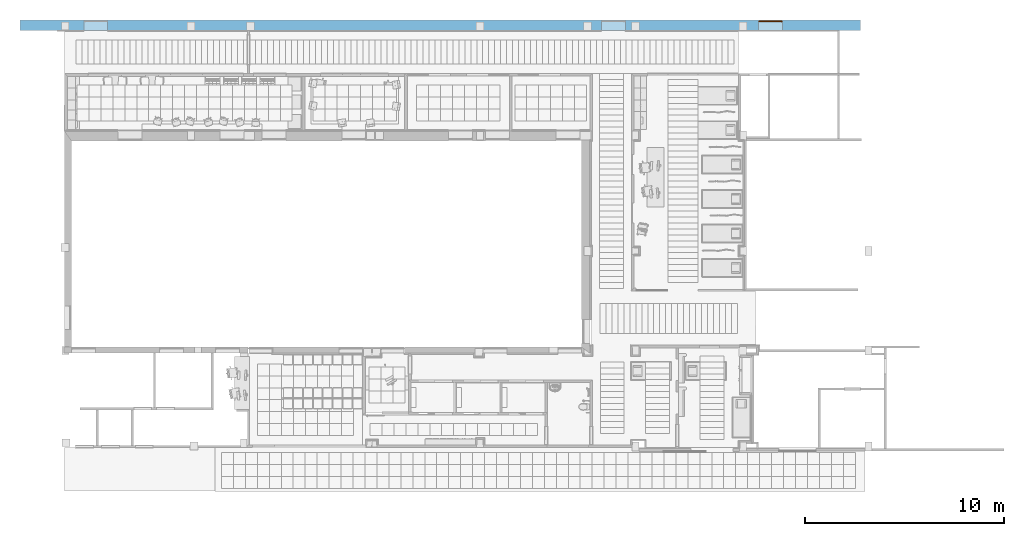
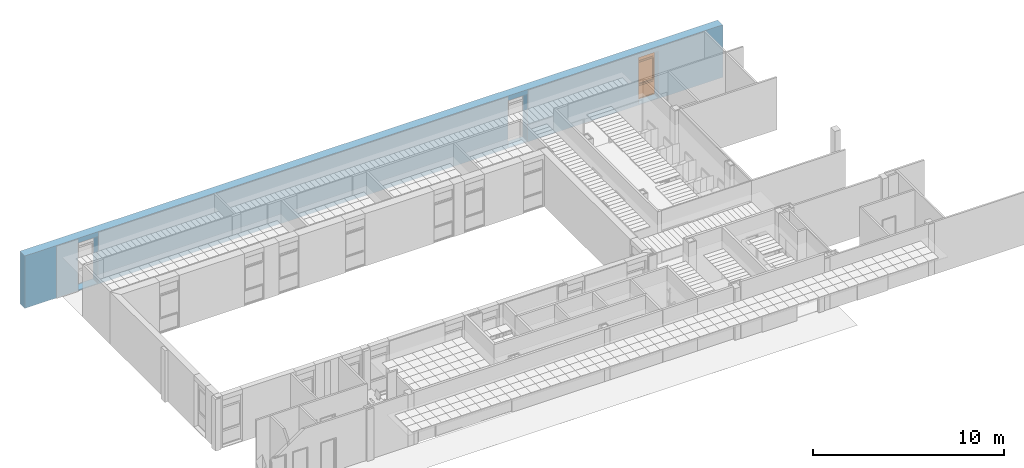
# One storey, part 43 of 68: 1 proxy, 3 openings, plus 1 element that does not belong to this part.
"""IFC2X3 building model written with IfcOpenShell, lengths in millimetres."""

from ifc_helpers import new_model, entity, si_unit, converted_unit, derived_unit, money_unit, direction, frame, origin_with_axes, origin_2d_with_axis, place, context, subcontext, project, spatial, polyline, rectangle, outline, extrude, open_shell, faceted_brep, surface_model, source, transform, mapped, material, layer, layer_set, layer_usage, type_object, element, fill, save


model = new_model("IFC2X3")

# Units and contexts
model_context = context("Model", 3, precision=0.01, world=origin_with_axes(), true_north=direction((0.0, 1.0)))
body_context = subcontext(model_context, "Body", "Model", "MODEL_VIEW")
ifc_project = project(units=[si_unit("LENGTHUNIT", "METRE", prefix="MILLI"), si_unit("AREAUNIT", "SQUARE_METRE"), si_unit("VOLUMEUNIT", "CUBIC_METRE"), converted_unit("PLANEANGLEUNIT", "DEGREE", entity("IfcPlaneAngleMeasure", 0.0174532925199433), si_unit("PLANEANGLEUNIT", "RADIAN"), dimensions=[0, 0, 0, 0, 0, 0, 0]), money_unit("USD"), converted_unit("TIMEUNIT", "Year", entity("IfcTimeMeasure", 31557600.0), si_unit("TIMEUNIT", "SECOND"), dimensions=[0, 0, 1, 0, 0, 0, 0]), si_unit("MASSUNIT", "GRAM", prefix="KILO"), si_unit("THERMODYNAMICTEMPERATUREUNIT", "DEGREE_CELSIUS"), si_unit("LUMINOUSINTENSITYUNIT", "LUMEN"), si_unit("ENERGYUNIT", "JOULE", prefix="MEGA"), derived_unit("THERMALCONDUCTANCEUNIT", [(si_unit("POWERUNIT", "WATT"), 1), (si_unit("LENGTHUNIT", "METRE"), -1), (si_unit("THERMODYNAMICTEMPERATUREUNIT", "KELVIN"), -1)]), derived_unit("SPECIFICHEATCAPACITYUNIT", [(si_unit("ENERGYUNIT", "JOULE"), 1), (si_unit("MASSUNIT", "GRAM", prefix="KILO"), -1), (si_unit("THERMODYNAMICTEMPERATUREUNIT", "KELVIN"), -1)]), derived_unit("MASSDENSITYUNIT", [(si_unit("MASSUNIT", "GRAM", prefix="KILO"), 1), (si_unit("VOLUMEUNIT", "CUBIC_METRE"), -1)])], contexts=[model_context])

# Site, building, storey
site_placement = place(None, origin_with_axes())
site = spatial("IfcSite", under=ifc_project, at=site_placement, Name="Sitio", CompositionType="ELEMENT")
building_placement = place(site_placement, origin_with_axes())
building = spatial("IfcBuilding", under=site, at=building_placement, Name="Construcción", CompositionType="ELEMENT")
storey_placement = place(building_placement, origin_with_axes())
storey = spatial("IfcBuildingStorey", under=building, at=storey_placement, Name="PLANTA 1ª", CompositionType="ELEMENT", Elevation=0.0)

# Wall, openings, proxy
ifc_material_1 = material(Name="ARQ_CE217_Gero")
ifc_layer_1 = layer(ifc_material_1, 100.0, ventilated="UNKNOWN")
ifc_material_2 = material(Name="ARQ_AI031_Aillament_Poliestireno expandido EPS")
ifc_layer_2 = layer(ifc_material_2, 205.0, ventilated="UNKNOWN")
ifc_material_3 = material(Name="ARQ_CE218_Ceramic")
ifc_layer_3 = layer(ifc_material_3, 200.0, ventilated="UNKNOWN")
ifc_material_4 = material(Name="ARQ_AM246_Arrebossat_De_Guix")
ifc_layer_4 = layer(ifc_material_4, 10.0, ventilated="UNKNOWN")
ifc_layer_set = layer_set([ifc_layer_1, ifc_layer_2, ifc_layer_3, ifc_layer_4], Name="façana pati CR5")
ifc_layer_usage = layer_usage(ifc_layer_set, "AXIS2", "NEGATIVE", 515.0)
wall_type = type_object("IfcWallType", Name="façana pati CR5 515", PredefinedType="NOTDEFINED")
wall_placement = place(storey_placement, frame((11882.64037720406, 4378.454186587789, 0.0), z_axis=(0.0, 0.0, 1.0), x_axis=(-1.0, 0.0, 0.0)))
wall = element("IfcWallStandardCase", 1, at=wall_placement, inside=storey, type_object=wall_type, material=ifc_layer_usage, Name="MS-201", context=body_context, shape_type="SweptSolid", body=[
    extrude(outline(polyline([(0.0, 0.0), (42162.71352873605, 0.0), (42162.71352873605, 515.0000000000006), (0.0, 515.0000000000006), (0.0, 0.0)])), origin_with_axes(), (0.0, 0.0, 1.0), 3350.0),
])
opening_1_placement = place(wall_placement, frame((12393.17017963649, 0.0, 50.0), z_axis=(0.0, 0.0, 1.0), x_axis=(1.0, 0.0, 0.0)))
element("IfcOpeningElement", 2, at=opening_1_placement, cuts=wall, Name="V - 008", context=body_context, shape_type="SweptSolid", body=[
    extrude(rectangle(XDim=1199.999999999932, YDim=3000.0, at=origin_2d_with_axis()), frame((0.0, 49.99999999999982, 1500.0), z_axis=(0.0, 1.0, 0.0), x_axis=(1.0, 0.0, 0.0)), (0.0, 0.0, 1.0), 980.0),
    extrude(rectangle(XDim=1199.999999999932, YDim=3000.0, at=origin_2d_with_axis()), frame((0.0, 49.99999999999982, 1500.0), z_axis=(0.0, -1.0, 0.0), x_axis=(1.0, 0.0, 0.0)), (0.0, 0.0, 1.0), 565.0000000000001),
])
opening_2_placement = place(wall_placement, frame((4499.643658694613, 0.0, 50.0), z_axis=(0.0, 0.0, 1.0), x_axis=(1.0, 0.0, 0.0)))
opening_2 = element("IfcOpeningElement", 3, at=opening_2_placement, cuts=wall, Name="V - 009", context=body_context, shape_type="SweptSolid", body=[
    extrude(rectangle(XDim=1199.999999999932, YDim=3000.0, at=origin_2d_with_axis()), frame((0.0, 49.99999999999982, 1500.0), z_axis=(0.0, 1.0, 0.0), x_axis=(1.0, 0.0, 0.0)), (0.0, 0.0, 1.0), 980.0),
    extrude(rectangle(XDim=1199.999999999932, YDim=3000.0, at=origin_2d_with_axis()), frame((0.0, 49.99999999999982, 1500.0), z_axis=(0.0, -1.0, 0.0), x_axis=(1.0, 0.0, 0.0)), (0.0, 0.0, 1.0), 565.0000000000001),
])
opening_3_placement = place(wall_placement, frame((38361.73170307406, 0.0, 50.0), z_axis=(0.0, 0.0, 1.0), x_axis=(1.0, 0.0, 0.0)))
element("IfcOpeningElement", 4, at=opening_3_placement, cuts=wall, Name="V - 010", context=body_context, shape_type="SweptSolid", body=[
    extrude(rectangle(XDim=1199.999999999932, YDim=3000.0, at=origin_2d_with_axis()), frame((0.0, 49.99999999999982, 1500.0), z_axis=(0.0, -1.0, 0.0), x_axis=(-1.0, 0.0, 0.0)), (0.0, 0.0, -1.0), 980.0),
    extrude(rectangle(XDim=1199.999999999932, YDim=3000.0, at=origin_2d_with_axis()), frame((0.0, 49.99999999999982, 1500.0), z_axis=(0.0, 1.0, 0.0), x_axis=(-1.0, 0.0, 0.0)), (0.0, 0.0, -1.0), 565.0000000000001),
])
building_element_proxy_type = type_object("IfcBuildingElementProxyType", Name="Ventana Vertical Multi-Faja 27", PredefinedType="NOTDEFINED")
shared_shape = source(origin_with_axes(), body_context, "Body", "SurfaceModel", [
    faceted_brep([(574.9999999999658, 0.0, 925.0), (574.9999999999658, 0.0, 2375.0), (549.9999999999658, 0.0, 2375.0), (549.9999999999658, 0.0, 2450.0), (549.9999999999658, 0.0, 2950.0), (599.9999999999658, 0.0, 2950.0), (599.9999999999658, 0.0, 50.00000000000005), (549.9999999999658, 0.0, 50.00000000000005), (549.9999999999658, 0.0, 850.0), (549.9999999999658, 0.0, 925.0), (574.9999999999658, -25.00000000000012, 925.0), (574.9999999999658, -25.00000000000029, 2375.0), (549.9999999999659, -25.00000000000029, 2375.0), (549.9999999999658, -25.00000000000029, 2350.0), (549.9999999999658, -50.00000000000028, 2350.0), (549.9999999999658, -50.0000000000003, 2450.0), (549.9999999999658, -50.00000000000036, 2950.0), (599.9999999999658, -50.00000000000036, 2950.0), (599.9999999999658, -50.00000000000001, 50.00000000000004), (549.9999999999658, -50.00000000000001, 50.00000000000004), (549.9999999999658, -50.00000000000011, 850.0), (549.9999999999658, -25.00000000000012, 925.0), (549.9999999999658, -50.00000000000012, 950.0000000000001), (549.9999999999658, -25.00000000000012, 950.0000000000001)], [[[0, 1, 2, 3, 4, 5, 6, 7, 8, 9]], [[1, 0, 10, 11]], [[12, 2, 1, 11]], [[12, 13, 14, 15, 3, 2]], [[3, 15, 16, 4]], [[4, 16, 17, 5]], [[5, 17, 18, 6]], [[6, 18, 19, 7]], [[7, 19, 20, 8]], [[21, 9, 8, 20, 22, 23]], [[0, 9, 21, 10]], [[13, 12, 11, 10, 21, 23]], [[13, 23, 22, 14]], [[17, 16, 15, 14, 22, 20, 19, 18]]]),
    faceted_brep([(-574.9999999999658, 0.0, 925.0), (-549.9999999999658, 0.0, 925.0), (-549.9999999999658, 0.0, 850.0), (-549.9999999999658, 0.0, 50.00000000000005), (-599.9999999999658, 0.0, 50.00000000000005), (-599.9999999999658, 0.0, 2950.0), (-549.9999999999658, 0.0, 2950.0), (-549.9999999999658, 0.0, 2450.0), (-549.9999999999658, 0.0, 2375.0), (-574.9999999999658, 0.0, 2375.0), (-574.9999999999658, -25.00000000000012, 925.0), (-549.9999999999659, -25.00000000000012, 925.0), (-549.9999999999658, -25.00000000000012, 950.0000000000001), (-549.9999999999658, -50.00000000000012, 950.0000000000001), (-549.9999999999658, -50.00000000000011, 850.0), (-549.9999999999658, -50.00000000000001, 50.00000000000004), (-599.9999999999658, -50.00000000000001, 50.00000000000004), (-599.9999999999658, -50.00000000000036, 2950.0), (-549.9999999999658, -50.00000000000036, 2950.0), (-549.9999999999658, -50.0000000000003, 2450.0), (-549.9999999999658, -25.00000000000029, 2375.0), (-549.9999999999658, -50.00000000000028, 2350.0), (-549.9999999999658, -25.00000000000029, 2350.0), (-574.9999999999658, -25.00000000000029, 2375.0)], [[[0, 1, 2, 3, 4, 5, 6, 7, 8, 9]], [[1, 0, 10, 11]], [[11, 12, 13, 14, 2, 1]], [[2, 14, 15, 3]], [[3, 15, 16, 4]], [[4, 16, 17, 5]], [[5, 17, 18, 6]], [[6, 18, 19, 7]], [[20, 8, 7, 19, 21, 22]], [[9, 8, 20, 23]], [[0, 9, 23, 10]], [[20, 22, 12, 11, 10, 23]], [[12, 22, 21, 13]], [[21, 19, 18, 17, 16, 15, 14, 13]]]),
    faceted_brep([(549.9999999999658, -25.00000000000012, 950.0000000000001), (-549.9999999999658, -25.00000000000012, 950.0000000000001), (-549.9999999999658, -50.00000000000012, 950.0000000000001), (549.9999999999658, -50.00000000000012, 950.0000000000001), (-549.9999999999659, -25.00000000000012, 925.0), (549.9999999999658, -25.00000000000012, 925.0), (-549.9999999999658, 0.0, 925.0), (-549.9999999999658, 0.0, 850.0), (-549.9999999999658, -50.00000000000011, 850.0), (549.9999999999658, -50.00000000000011, 850.0), (549.9999999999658, 0.0, 850.0), (549.9999999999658, 0.0, 925.0)], [[[0, 1, 2, 3]], [[4, 1, 0, 5]], [[4, 6, 7, 8, 2, 1]], [[3, 2, 8, 9]], [[5, 0, 3, 9, 10, 11]], [[11, 6, 4, 5]], [[6, 11, 10, 7]], [[10, 9, 8, 7]]]),
    faceted_brep([(549.9999999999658, 0.0, 2375.0), (-549.9999999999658, 0.0, 2375.0), (-549.9999999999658, 0.0, 2450.0), (549.9999999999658, 0.0, 2450.0), (-549.9999999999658, -25.00000000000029, 2375.0), (549.9999999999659, -25.00000000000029, 2375.0), (-549.9999999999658, -25.00000000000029, 2350.0), (-549.9999999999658, -50.00000000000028, 2350.0), (-549.9999999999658, -50.0000000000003, 2450.0), (549.9999999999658, -50.0000000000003, 2450.0), (549.9999999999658, -50.00000000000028, 2350.0), (549.9999999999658, -25.00000000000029, 2350.0)], [[[0, 1, 2, 3]], [[4, 1, 0, 5]], [[4, 6, 7, 8, 2, 1]], [[2, 8, 9, 3]], [[5, 0, 3, 9, 10, 11]], [[6, 4, 5, 11]], [[6, 11, 10, 7]], [[9, 8, 7, 10]]]),
    faceted_brep([(-549.9999999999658, -50.00000000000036, 2950.0), (-599.9999999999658, -50.00000000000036, 2950.0), (-599.9999999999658, 0.0, 2950.0), (-549.9999999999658, 0.0, 2950.0), (549.9999999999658, -50.00000000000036, 2950.0), (599.9999999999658, -50.00000000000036, 2950.0), (599.9999999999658, -50.00000000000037, 3000.0), (-599.9999999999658, -50.00000000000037, 3000.0), (-599.9999999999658, 0.0, 3000.0), (599.9999999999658, 0.0, 3000.0), (599.9999999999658, 0.0, 2950.0), (549.9999999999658, 0.0, 2950.0)], [[[0, 1, 2, 3]], [[0, 4, 5, 6, 7, 1]], [[1, 7, 8, 2]], [[3, 2, 8, 9, 10, 11]], [[4, 0, 3, 11]], [[5, 4, 11, 10]], [[6, 5, 10, 9]], [[7, 6, 9, 8]]]),
    faceted_brep([(549.9999999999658, -50.00000000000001, 50.0), (599.9999999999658, -50.00000000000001, 50.0), (599.9999999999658, 0.0, 50.00000000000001), (549.9999999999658, 0.0, 50.00000000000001), (-549.9999999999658, -50.00000000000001, 50.0), (-599.9999999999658, -50.00000000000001, 50.0), (-599.9999999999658, -50.0, 0.0), (599.9999999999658, -50.0, 0.0), (599.9999999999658, 0.0, 0.0), (-599.9999999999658, 0.0, 0.0), (-599.9999999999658, 0.0, 50.00000000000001), (-549.9999999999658, 0.0, 50.00000000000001)], [[[0, 1, 2, 3]], [[0, 4, 5, 6, 7, 1]], [[1, 7, 8, 2]], [[3, 2, 8, 9, 10, 11]], [[4, 0, 3, 11]], [[5, 4, 11, 10]], [[6, 5, 10, 9]], [[7, 6, 9, 8]]]),
    surface_model("IfcShellBasedSurfaceModel", [(549.9999999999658, -35.0, 49.99999999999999), (549.9999999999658, -35.0000000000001, 850.0), (-549.9999999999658, -35.0000000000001, 850.0), (-549.9999999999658, -35.0, 49.99999999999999)], [open_shell([[[0, 1, 2, 3]]])]),
    surface_model("IfcShellBasedSurfaceModel", [(549.9999999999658, -15.0, 49.99999999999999), (-549.9999999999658, -15.0, 49.99999999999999), (-549.9999999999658, -15.0000000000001, 850.0), (549.9999999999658, -15.0000000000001, 850.0)], [open_shell([[[0, 1, 2, 3]]])]),
    faceted_brep([(521.4999999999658, -25.00000000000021, 1677.0), (521.4999999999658, -37.00000000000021, 1677.0), (522.8397459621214, -37.00000000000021, 1682.0), (522.8397459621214, -25.00000000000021, 1682.0), (521.4999999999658, -25.0000000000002, 1623.0), (521.4999999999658, -37.0000000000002, 1623.0), (522.8397459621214, -37.0000000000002, 1618.0), (526.4999999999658, -37.0000000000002, 1614.339745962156), (531.4999999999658, -37.0000000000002, 1613.0), (543.4999999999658, -37.0000000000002, 1613.0), (548.4999999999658, -37.0000000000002, 1614.339745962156), (552.1602540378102, -37.0000000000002, 1618.0), (553.4999999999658, -37.0000000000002, 1623.0), (553.4999999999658, -37.00000000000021, 1677.0), (552.1602540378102, -37.00000000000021, 1682.0), (548.4999999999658, -37.00000000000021, 1685.660254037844), (543.4999999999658, -37.00000000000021, 1687.0), (531.4999999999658, -37.00000000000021, 1687.0), (526.4999999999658, -37.00000000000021, 1685.660254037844), (526.4999999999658, -25.00000000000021, 1685.660254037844), (531.4999999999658, -25.00000000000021, 1687.0), (543.4999999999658, -25.00000000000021, 1687.0), (548.4999999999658, -25.00000000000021, 1685.660254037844), (552.1602540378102, -25.00000000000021, 1682.0), (553.4999999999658, -25.00000000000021, 1677.0), (553.4999999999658, -25.0000000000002, 1623.0), (552.1602540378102, -25.0000000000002, 1618.0), (548.4999999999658, -25.0000000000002, 1614.339745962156), (543.4999999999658, -25.0000000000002, 1613.0), (531.4999999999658, -25.0000000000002, 1613.0), (526.4999999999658, -25.0000000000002, 1614.339745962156), (522.8397459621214, -25.0000000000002, 1618.0)], [[[0, 1, 2, 3]], [[4, 5, 1, 0]], [[1, 5, 6, 7, 8, 9, 10, 11, 12, 13, 14, 15, 16, 17, 18, 2]], [[3, 2, 18, 19]], [[0, 3, 19, 20, 21, 22, 23, 24, 25, 26, 27, 28, 29, 30, 31, 4]], [[31, 6, 5, 4]], [[30, 7, 6, 31]], [[29, 8, 7, 30]], [[28, 9, 8, 29]], [[27, 10, 9, 28]], [[26, 11, 10, 27]], [[25, 12, 11, 26]], [[24, 13, 12, 25]], [[23, 14, 13, 24]], [[22, 15, 14, 23]], [[21, 16, 15, 22]], [[20, 17, 16, 21]], [[19, 18, 17, 20]]]),
    faceted_brep([(537.4999999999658, -37.0000000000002, 1663.5), (537.4999999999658, -61.00000000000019, 1663.5), (544.2499999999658, -61.00000000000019, 1661.69134295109), (544.2499999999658, -37.0000000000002, 1661.69134295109), (530.7499999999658, -37.0000000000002, 1661.69134295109), (530.7499999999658, -61.00000000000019, 1661.69134295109), (525.8086570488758, -61.00000000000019, 1656.75), (523.9999999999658, -61.00000000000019, 1650.0), (525.808657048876, -61.00000000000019, 1643.25), (530.7499999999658, -61.00000000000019, 1638.30865704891), (537.4999999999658, -61.00000000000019, 1636.5), (544.2499999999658, -61.00000000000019, 1638.30865704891), (549.1913429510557, -61.00000000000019, 1643.25), (550.9999999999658, -61.00000000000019, 1650.0), (549.1913429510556, -61.00000000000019, 1656.75), (549.1913429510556, -37.0000000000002, 1656.75), (550.9999999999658, -37.0000000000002, 1650.0), (549.1913429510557, -37.0000000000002, 1643.25), (544.2499999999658, -37.0000000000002, 1638.30865704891), (537.4999999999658, -37.0000000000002, 1636.5), (530.7499999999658, -37.0000000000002, 1638.30865704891), (525.808657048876, -37.0000000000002, 1643.25), (523.9999999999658, -37.0000000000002, 1650.0), (525.8086570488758, -37.0000000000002, 1656.75)], [[[0, 1, 2, 3]], [[4, 5, 1, 0]], [[1, 5, 6, 7, 8, 9, 10, 11, 12, 13, 14, 2]], [[3, 2, 14, 15]], [[0, 3, 15, 16, 17, 18, 19, 20, 21, 22, 23, 4]], [[23, 6, 5, 4]], [[22, 7, 6, 23]], [[21, 8, 7, 22]], [[20, 9, 8, 21]], [[19, 10, 9, 20]], [[18, 11, 10, 19]], [[17, 12, 11, 18]], [[16, 13, 12, 17]], [[15, 14, 13, 16]]]),
    faceted_brep([(525.9999999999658, -61.00000000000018, 1543.0), (523.9999999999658, -61.00000000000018, 1546.0), (523.9999999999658, -61.00000000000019, 1650.0), (525.8086570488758, -61.00000000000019, 1656.75), (530.7499999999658, -61.00000000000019, 1661.69134295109), (537.4999999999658, -61.00000000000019, 1663.5), (544.2499999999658, -61.00000000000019, 1661.69134295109), (549.1913429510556, -61.00000000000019, 1656.75), (550.9999999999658, -61.00000000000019, 1650.0), (550.9999999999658, -61.00000000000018, 1546.0), (548.9999999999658, -61.00000000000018, 1543.0), (537.4999999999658, -61.00000000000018, 1540.0), (525.999999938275, -69.00000000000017, 1543.000000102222), (523.9999996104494, -69.00000000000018, 1545.999999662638), (523.9999996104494, -69.0000000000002, 1649.99999994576), (525.8086569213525, -69.0000000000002, 1656.749999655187), (530.7500002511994, -69.0000000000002, 1661.691342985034), (537.4999999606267, -69.0000000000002, 1663.500000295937), (544.2499996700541, -69.0000000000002, 1661.691342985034), (549.1913429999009, -69.0000000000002, 1656.749999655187), (551.000000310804, -69.0000000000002, 1649.99999994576), (551.000000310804, -69.00000000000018, 1545.999999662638), (548.9999999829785, -69.00000000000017, 1543.000000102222), (537.4999999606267, -69.00000000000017, 1539.999999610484), (527.8625374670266, -71.99999956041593, 1545.61451963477), (526.9999991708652, -71.99999956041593, 1546.908326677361), (526.9999991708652, -71.99999956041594, 1649.605042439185), (528.4983828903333, -71.99999956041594, 1655.197085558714), (532.3029143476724, -71.99999956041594, 1659.001617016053), (537.4999999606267, -71.99999956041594, 1660.394172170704), (542.697085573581, -71.99999956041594, 1659.001617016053), (546.50161703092, -71.99999956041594, 1655.197085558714), (548.0000007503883, -71.99999956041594, 1649.605042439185), (548.0000007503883, -71.99999956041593, 1546.908326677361), (547.1374624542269, -71.99999956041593, 1545.61451963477), (537.4999999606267, -71.99999956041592, 1543.100398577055)], [[[0, 1, 2, 3, 4, 5, 6, 7, 8, 9, 10, 11]], [[0, 12, 13, 1]], [[1, 13, 14, 2]], [[2, 14, 15, 3]], [[3, 15, 16, 4]], [[4, 16, 17, 5]], [[5, 17, 18, 6]], [[6, 18, 19, 7]], [[7, 19, 20, 8]], [[8, 20, 21, 9]], [[9, 21, 22, 10]], [[10, 22, 23, 11]], [[11, 23, 12, 0]], [[12, 24, 25, 13]], [[13, 25, 26, 14]], [[14, 26, 27, 15]], [[15, 27, 28, 16]], [[16, 28, 29, 17]], [[17, 29, 30, 18]], [[18, 30, 31, 19]], [[19, 31, 32, 20]], [[20, 32, 33, 21]], [[21, 33, 34, 22]], [[22, 34, 35, 23]], [[23, 35, 24, 12]], [[34, 33, 32, 31, 30, 29, 28, 27, 26, 25, 24, 35]]]),
    faceted_brep([(524.9999999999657, -25.00000000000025, 2325.0), (574.9999999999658, -25.00000000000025, 2325.0), (574.9999999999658, 24.99999999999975, 2325.0), (524.9999999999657, 24.99999999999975, 2325.0), (524.9999999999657, -25.00000000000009, 975.0000000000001), (574.9999999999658, -25.00000000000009, 975.0000000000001), (574.9999999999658, 24.99999999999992, 975.0000000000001), (524.9999999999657, 24.99999999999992, 975.0000000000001)], [[[0, 1, 2, 3]], [[0, 4, 5, 1]], [[1, 5, 6, 2]], [[3, 2, 6, 7]], [[4, 0, 3, 7]], [[5, 4, 7, 6]]]),
    faceted_brep([(-524.9999999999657, -25.00000000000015, 975.0000000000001), (-574.9999999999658, -25.00000000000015, 975.0000000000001), (-574.9999999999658, 24.99999999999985, 975.0000000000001), (-524.9999999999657, 24.99999999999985, 975.0000000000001), (-524.9999999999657, -25.00000000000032, 2325.0), (-574.9999999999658, -25.00000000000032, 2325.0), (-574.9999999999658, 24.99999999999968, 2325.0), (-524.9999999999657, 24.99999999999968, 2325.0)], [[[0, 1, 2, 3]], [[0, 4, 5, 1]], [[1, 5, 6, 2]], [[3, 2, 6, 7]], [[4, 0, 3, 7]], [[5, 4, 7, 6]]]),
    faceted_brep([(-574.9999999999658, -25.00000000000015, 925.0), (-574.9999999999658, -25.00000000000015, 975.0000000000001), (-574.9999999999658, 24.99999999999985, 975.0000000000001), (-574.9999999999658, 24.99999999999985, 925.0), (574.9999999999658, -25.00000000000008, 925.0), (574.9999999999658, -25.00000000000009, 975.0000000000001), (524.9999999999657, -25.00000000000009, 975.0000000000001), (-524.9999999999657, -25.00000000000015, 975.0000000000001), (-524.9999999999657, 24.99999999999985, 975.0000000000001), (524.9999999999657, 24.99999999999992, 975.0000000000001), (574.9999999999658, 24.99999999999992, 975.0000000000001), (574.9999999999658, 24.99999999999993, 925.0)], [[[0, 1, 2, 3]], [[0, 4, 5, 6, 7, 1]], [[1, 7, 8, 2]], [[3, 2, 8, 9, 10, 11]], [[4, 0, 3, 11]], [[5, 4, 11, 10]], [[6, 5, 10, 9]], [[7, 6, 9, 8]]]),
    faceted_brep([(574.9999999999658, -25.00000000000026, 2375.0), (574.9999999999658, -25.00000000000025, 2325.0), (574.9999999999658, 24.99999999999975, 2325.0), (574.9999999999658, 24.99999999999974, 2375.0), (-574.9999999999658, -25.00000000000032, 2375.0), (-574.9999999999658, -25.00000000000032, 2325.0), (-524.9999999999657, -25.00000000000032, 2325.0), (524.9999999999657, -25.00000000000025, 2325.0), (524.9999999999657, 24.99999999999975, 2325.0), (-524.9999999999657, 24.99999999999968, 2325.0), (-574.9999999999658, 24.99999999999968, 2325.0), (-574.9999999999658, 24.99999999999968, 2375.0)], [[[0, 1, 2, 3]], [[0, 4, 5, 6, 7, 1]], [[1, 7, 8, 2]], [[3, 2, 8, 9, 10, 11]], [[4, 0, 3, 11]], [[5, 4, 11, 10]], [[6, 5, 10, 9]], [[7, 6, 9, 8]]]),
    surface_model("IfcShellBasedSurfaceModel", [(524.9999999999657, -10.00000000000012, 975.0000000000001), (524.9999999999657, -10.00000000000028, 2325.0), (-524.9999999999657, -10.00000000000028, 2325.0), (-524.9999999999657, -10.00000000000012, 975.0000000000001)], [open_shell([[[0, 1, 2, 3]]])]),
    surface_model("IfcShellBasedSurfaceModel", [(524.9999999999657, 9.999999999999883, 975.0000000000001), (-524.9999999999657, 9.999999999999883, 975.0000000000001), (-524.9999999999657, 9.99999999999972, 2325.0), (524.9999999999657, 9.99999999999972, 2325.0)], [open_shell([[[0, 1, 2, 3]]])]),
    surface_model("IfcShellBasedSurfaceModel", [(549.9999999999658, -35.0000000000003, 2450.0), (549.9999999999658, -35.00000000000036, 2950.0), (-549.9999999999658, -35.00000000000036, 2950.0), (-549.9999999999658, -35.0000000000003, 2450.0)], [open_shell([[[0, 1, 2, 3]]])]),
    surface_model("IfcShellBasedSurfaceModel", [(549.9999999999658, -15.0000000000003, 2450.0), (-549.9999999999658, -15.0000000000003, 2450.0), (-549.9999999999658, -15.00000000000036, 2950.0), (549.9999999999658, -15.00000000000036, 2950.0)], [open_shell([[[0, 1, 2, 3]]])]),
])
proxy_placement = place(opening_2_placement, frame((599.9999999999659, 0.0, 0.0), z_axis=(0.0, 0.0, 1.0), x_axis=(-1.0, 0.0, 0.0)))
proxy = element("IfcBuildingElementProxy", 5, at=proxy_placement, inside=storey, type_object=building_element_proxy_type, Name="V - 009", context=body_context, shape_type="MappedRepresentation", body=[
    mapped(shared_shape, transform((599.9999999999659, -49.99999999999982, 0.0))),
])
fill(opening_2, proxy)

save(model, "model.ifc")
